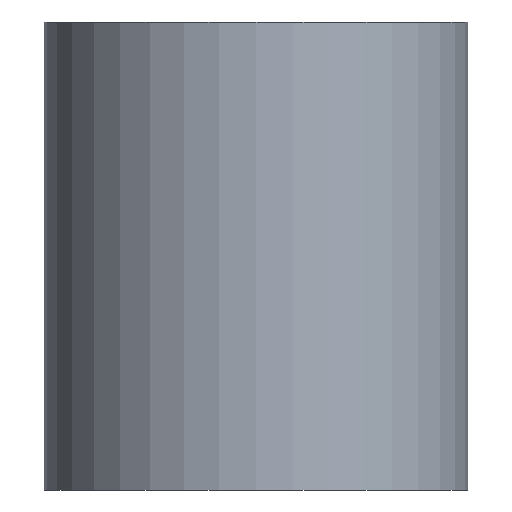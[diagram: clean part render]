
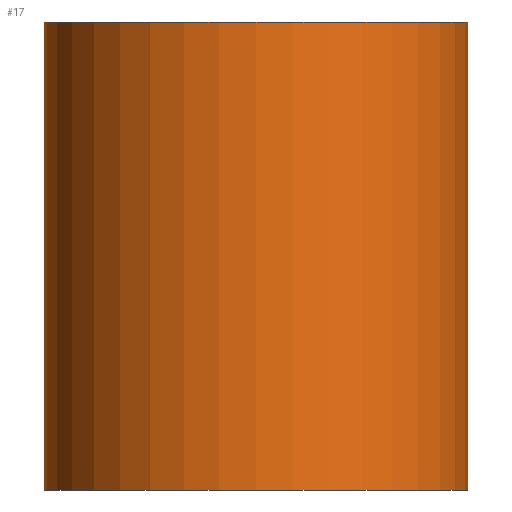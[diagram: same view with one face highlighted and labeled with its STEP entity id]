
A CAD part, front view. The second image highlights one B-rep face of the part: STEP entity #17.
In plain terms, the highlighted cylindrical face has radius 24 mm (diameter 48 mm), a full revolution.
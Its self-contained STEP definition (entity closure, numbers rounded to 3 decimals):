
#17 = ADVANCED_FACE('',(#18),#31,.T.);
#18 = FACE_BOUND('',#19,.T.);
#19 = EDGE_LOOP('',(#20,#54,#77,#104));
#20 = ORIENTED_EDGE('',*,*,#21,.F.);
#21 = EDGE_CURVE('',#22,#22,#24,.T.);
#22 = VERTEX_POINT('',#23);
#23 = CARTESIAN_POINT('',(159.,0.,180.));
#24 = SURFACE_CURVE('',#25,(#30,#42),.PCURVE_S1.);
#25 = CIRCLE('',#26,24.);
#26 = AXIS2_PLACEMENT_3D('',#27,#28,#29);
#27 = CARTESIAN_POINT('',(135.,0.,180.));
#28 = DIRECTION('',(0.,0.,1.));
#29 = DIRECTION('',(1.,0.,-0.));
#30 = PCURVE('',#31,#36);
#31 = CYLINDRICAL_SURFACE('',#32,24.);
#32 = AXIS2_PLACEMENT_3D('',#33,#34,#35);
#33 = CARTESIAN_POINT('',(135.,0.,127.));
#34 = DIRECTION('',(0.,0.,1.));
#35 = DIRECTION('',(1.,0.,-0.));
#36 = DEFINITIONAL_REPRESENTATION('',(#37),#41);
#37 = LINE('',#38,#39);
#38 = CARTESIAN_POINT('',(0.,53.));
#39 = VECTOR('',#40,1.);
#40 = DIRECTION('',(1.,0.));
#41 = ( GEOMETRIC_REPRESENTATION_CONTEXT(2) 
PARAMETRIC_REPRESENTATION_CONTEXT() REPRESENTATION_CONTEXT('2D SPACE',''
  ) );
#42 = PCURVE('',#43,#48);
#43 = PLANE('',#44);
#44 = AXIS2_PLACEMENT_3D('',#45,#46,#47);
#45 = CARTESIAN_POINT('',(135.,0.,180.));
#46 = DIRECTION('',(0.,0.,1.));
#47 = DIRECTION('',(1.,0.,-0.));
#48 = DEFINITIONAL_REPRESENTATION('',(#49),#53);
#49 = CIRCLE('',#50,24.);
#50 = AXIS2_PLACEMENT_2D('',#51,#52);
#51 = CARTESIAN_POINT('',(0.,0.));
#52 = DIRECTION('',(1.,0.));
#53 = ( GEOMETRIC_REPRESENTATION_CONTEXT(2) 
PARAMETRIC_REPRESENTATION_CONTEXT() REPRESENTATION_CONTEXT('2D SPACE',''
  ) );
#54 = ORIENTED_EDGE('',*,*,#55,.F.);
#55 = EDGE_CURVE('',#56,#22,#58,.T.);
#56 = VERTEX_POINT('',#57);
#57 = CARTESIAN_POINT('',(159.,0.,127.));
#58 = SEAM_CURVE('',#59,(#63,#70),.PCURVE_S1.);
#59 = LINE('',#60,#61);
#60 = CARTESIAN_POINT('',(159.,0.,127.));
#61 = VECTOR('',#62,1.);
#62 = DIRECTION('',(0.,0.,1.));
#63 = PCURVE('',#31,#64);
#64 = DEFINITIONAL_REPRESENTATION('',(#65),#69);
#65 = LINE('',#66,#67);
#66 = CARTESIAN_POINT('',(6.283,-0.));
#67 = VECTOR('',#68,1.);
#68 = DIRECTION('',(0.,1.));
#69 = ( GEOMETRIC_REPRESENTATION_CONTEXT(2) 
PARAMETRIC_REPRESENTATION_CONTEXT() REPRESENTATION_CONTEXT('2D SPACE',''
  ) );
#70 = PCURVE('',#31,#71);
#71 = DEFINITIONAL_REPRESENTATION('',(#72),#76);
#72 = LINE('',#73,#74);
#73 = CARTESIAN_POINT('',(0.,-0.));
#74 = VECTOR('',#75,1.);
#75 = DIRECTION('',(0.,1.));
#76 = ( GEOMETRIC_REPRESENTATION_CONTEXT(2) 
PARAMETRIC_REPRESENTATION_CONTEXT() REPRESENTATION_CONTEXT('2D SPACE',''
  ) );
#77 = ORIENTED_EDGE('',*,*,#78,.T.);
#78 = EDGE_CURVE('',#56,#56,#79,.T.);
#79 = SURFACE_CURVE('',#80,(#85,#92),.PCURVE_S1.);
#80 = CIRCLE('',#81,24.);
#81 = AXIS2_PLACEMENT_3D('',#82,#83,#84);
#82 = CARTESIAN_POINT('',(135.,0.,127.));
#83 = DIRECTION('',(0.,0.,1.));
#84 = DIRECTION('',(1.,0.,-0.));
#85 = PCURVE('',#31,#86);
#86 = DEFINITIONAL_REPRESENTATION('',(#87),#91);
#87 = LINE('',#88,#89);
#88 = CARTESIAN_POINT('',(0.,0.));
#89 = VECTOR('',#90,1.);
#90 = DIRECTION('',(1.,0.));
#91 = ( GEOMETRIC_REPRESENTATION_CONTEXT(2) 
PARAMETRIC_REPRESENTATION_CONTEXT() REPRESENTATION_CONTEXT('2D SPACE',''
  ) );
#92 = PCURVE('',#93,#98);
#93 = PLANE('',#94);
#94 = AXIS2_PLACEMENT_3D('',#95,#96,#97);
#95 = CARTESIAN_POINT('',(135.,0.,127.));
#96 = DIRECTION('',(0.,0.,1.));
#97 = DIRECTION('',(1.,0.,-0.));
#98 = DEFINITIONAL_REPRESENTATION('',(#99),#103);
#99 = CIRCLE('',#100,24.);
#100 = AXIS2_PLACEMENT_2D('',#101,#102);
#101 = CARTESIAN_POINT('',(0.,0.));
#102 = DIRECTION('',(1.,0.));
#103 = ( GEOMETRIC_REPRESENTATION_CONTEXT(2) 
PARAMETRIC_REPRESENTATION_CONTEXT() REPRESENTATION_CONTEXT('2D SPACE',''
  ) );
#104 = ORIENTED_EDGE('',*,*,#55,.T.);
